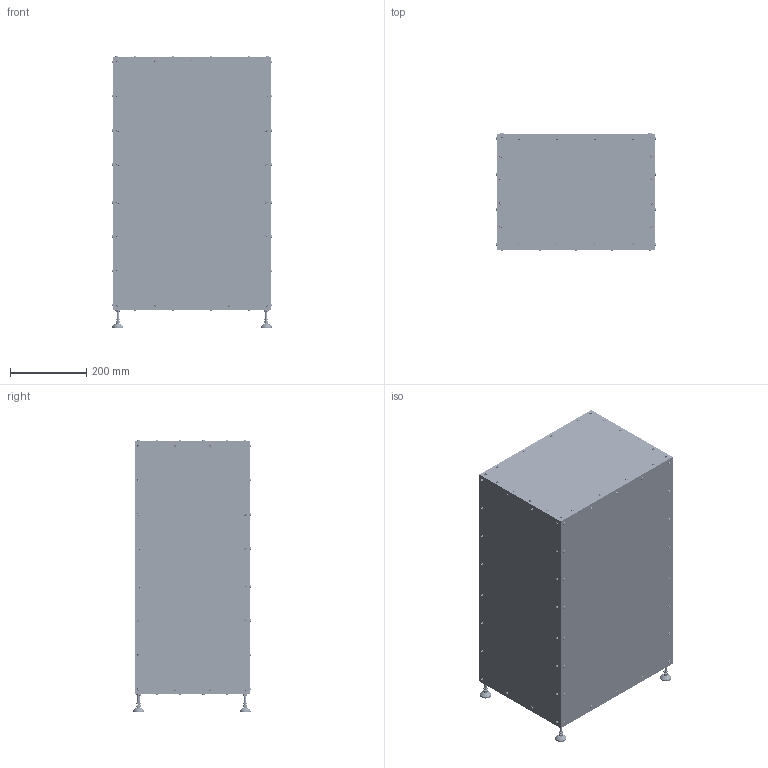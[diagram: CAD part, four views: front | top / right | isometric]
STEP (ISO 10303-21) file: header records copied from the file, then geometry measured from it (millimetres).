
FILE_DESCRIPTION (( 'STEP AP214' ), '1' );
FILE_NAME ('FAU-BOITE3-03 boite 20x20 PUMP.STEP', '2025-08-08T08:55:26', ( '' ), ( '' ), 'SwSTEP 2.0', 'SolidWorks 2017', '' );
FILE_SCHEMA (( 'AUTOMOTIVE_DESIGN' ));
Length unit declared in the file: millimetre
Products named in the file (13): vis M4-8; panneau 2 boite 3 20x20_2; fixe06b1125 Ecrou coulisseau - 6 St - M4 - 6 mm; BASE00H2407-Pied profilé aluminium – D30 – M6x60 - Noir; panneau 3 boite 3 20x20_2; fixe06b1219 Kit équerre - 6 mm - 20x20x20; base06b0001 Profilé 20x20 mm - 6 mm_210+170; écrou_HBAS_‚crou h M6; fixe06b1125 Ecrou coulisseau - 6 St - M4 - 6 mm_90; base06b0001 Profilé 20x20 mm - 6 mm_260; FAU-BOITE3-03 boite 20x20 PUMP; base06b0001 Profilé 20x20 mm - 6 mm_800-150; panneau 1 boite 3 20x20_2
Assembly tree (237 placements, depth 2):
  FAU-BOITE3-03 boite 20x20 PUMP
    base06b0001 Profilé 20x20 mm - 6 mm_800-150  x4
    base06b0001 Profilé 20x20 mm - 6 mm_260  x4
    base06b0001 Profilé 20x20 mm - 6 mm_210+170  x4
    fixe06b1219 Kit équerre - 6 mm - 20x20x20  x24
    panneau 2 boite 3 20x20_2  x2
    panneau 1 boite 3 20x20_2  x2
    panneau 3 boite 3 20x20_2
    fixe06b1125 Ecrou coulisseau - 6 St - M4 - 6 mm  x66
    vis M4-8  x94
    fixe06b1125 Ecrou coulisseau - 6 St - M4 - 6 mm_90  x28
    BASE00H2407-Pied profilé aluminium – D30 – M6x60 - Noir  x4
    écrou_HBAS_‚crou h M6  x4
Bounding box: 420.4 x 309.67 x 715.2 mm (x, y, z)
Volume: 3750163 mm3; surface area: 2928650.4 mm2
Topology: 341 solids, 341 shells, 10544 faces, 29500 edges, 19374 vertices
Faces by surface type: plane 5270, cylinder 4356, cone 704, bspline 166, torus 40, sphere 8
Entity records: 36923 total; most frequent: CARTESIAN_POINT 6708, DIRECTION 5925, ORIENTED_EDGE 5376, EDGE_CURVE 2688, AXIS2_PLACEMENT_3D 2195, VERTEX_POINT 1786, LINE 1535, VECTOR 1535
